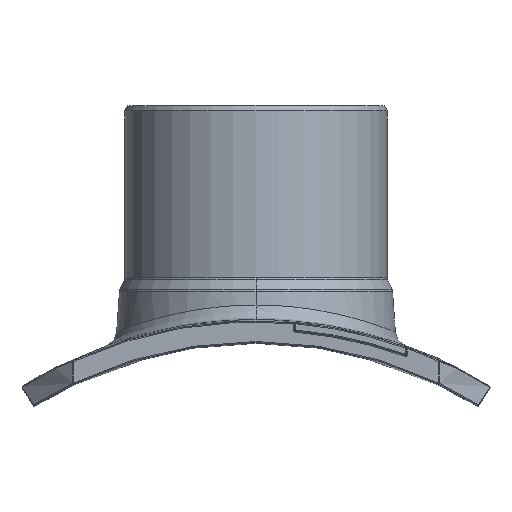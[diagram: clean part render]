
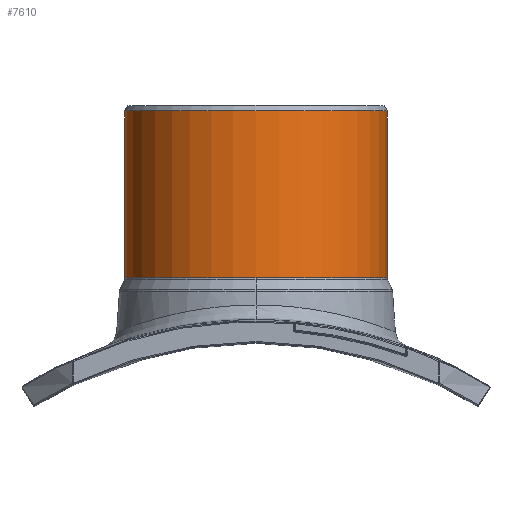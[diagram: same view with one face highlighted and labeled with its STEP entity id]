
A CAD part, top view. The second image highlights one B-rep face of the part: STEP entity #7610.
In plain terms, the highlighted cylindrical face has radius 125 mm (diameter 250 mm), a partial arc.
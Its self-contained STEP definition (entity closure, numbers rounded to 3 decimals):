
#1537=CARTESIAN_POINT('',(0.,462.083,0.));
#1538=DIRECTION('',(0.,-1.,0.));
#1539=DIRECTION('',(1.,0.,0.));
#1540=AXIS2_PLACEMENT_3D('',#1537,#1538,#1539);
#1545=CARTESIAN_POINT('',(0.,462.083,0.));
#1546=DIRECTION('',(0.,-1.,0.));
#1547=DIRECTION('',(0.,0.,1.));
#1548=AXIS2_PLACEMENT_3D('',#1545,#1546,#1547);
#1553=DIRECTION('',(0.,-1.,0.));
#1554=VECTOR('',#1553,158.917);
#1555=CARTESIAN_POINT('',(-125.,621.,0.));
#1556=LINE('151588',#1555,#1554);
#1560=DIRECTION('',(0.,-1.,0.));
#1561=VECTOR('',#1560,158.917);
#1562=CARTESIAN_POINT('',(125.,621.,0.));
#1563=LINE('151587',#1562,#1561);
#1614=CARTESIAN_POINT('',(0.,621.,0.));
#1615=DIRECTION('',(0.,1.,0.));
#1616=DIRECTION('',(-1.,0.,0.));
#1617=AXIS2_PLACEMENT_3D('',#1614,#1615,#1616);
#6022=CARTESIAN_POINT('',(125.,621.,0.));
#6023=CARTESIAN_POINT('',(-125.,621.,0.));
#6024=VERTEX_POINT('',#6022);
#6025=VERTEX_POINT('',#6023);
#6046=CARTESIAN_POINT('',(125.,462.083,0.));
#6047=CARTESIAN_POINT('',(0.,462.083,125.));
#6048=VERTEX_POINT('',#6046);
#6049=VERTEX_POINT('',#6047);
#6050=CARTESIAN_POINT('',(-125.,462.083,0.));
#6051=VERTEX_POINT('',#6050);
#7595=CARTESIAN_POINT('',(0.,626.,0.));
#7596=DIRECTION('',(0.,1.,0.));
#7597=DIRECTION('',(1.,0.,0.));
#7598=AXIS2_PLACEMENT_3D('',#7595,#7596,#7597);
#7599=CYLINDRICAL_SURFACE('4584',#7598,125.);
#7600=ORIENTED_EDGE('151579',*,*,#7572,.T.);
#7601=ORIENTED_EDGE('151581',*,*,#7587,.T.);
#7603=ORIENTED_EDGE('151588',*,*,#7602,.F.);
#7605=ORIENTED_EDGE('4600',*,*,#7604,.T.);
#7607=ORIENTED_EDGE('151587',*,*,#7606,.T.);
#7608=EDGE_LOOP('4584',(#7600,#7601,#7603,#7605,#7607));
#7609=FACE_OUTER_BOUND('4584',#7608,.F.);
#1541=CIRCLE('151579',#1540,125.);
#1549=CIRCLE('151581',#1548,125.);
#1618=CIRCLE('4600',#1617,125.);
#7572=EDGE_CURVE('151579',#6048,#6049,#1541,.T.);
#7587=EDGE_CURVE('151581',#6049,#6051,#1549,.T.);
#7602=EDGE_CURVE('151588',#6025,#6051,#1556,.T.);
#7604=EDGE_CURVE('4600',#6025,#6024,#1618,.T.);
#7606=EDGE_CURVE('151587',#6024,#6048,#1563,.T.);
#7610=ADVANCED_FACE('4584',(#7609),#7599,.T.);
